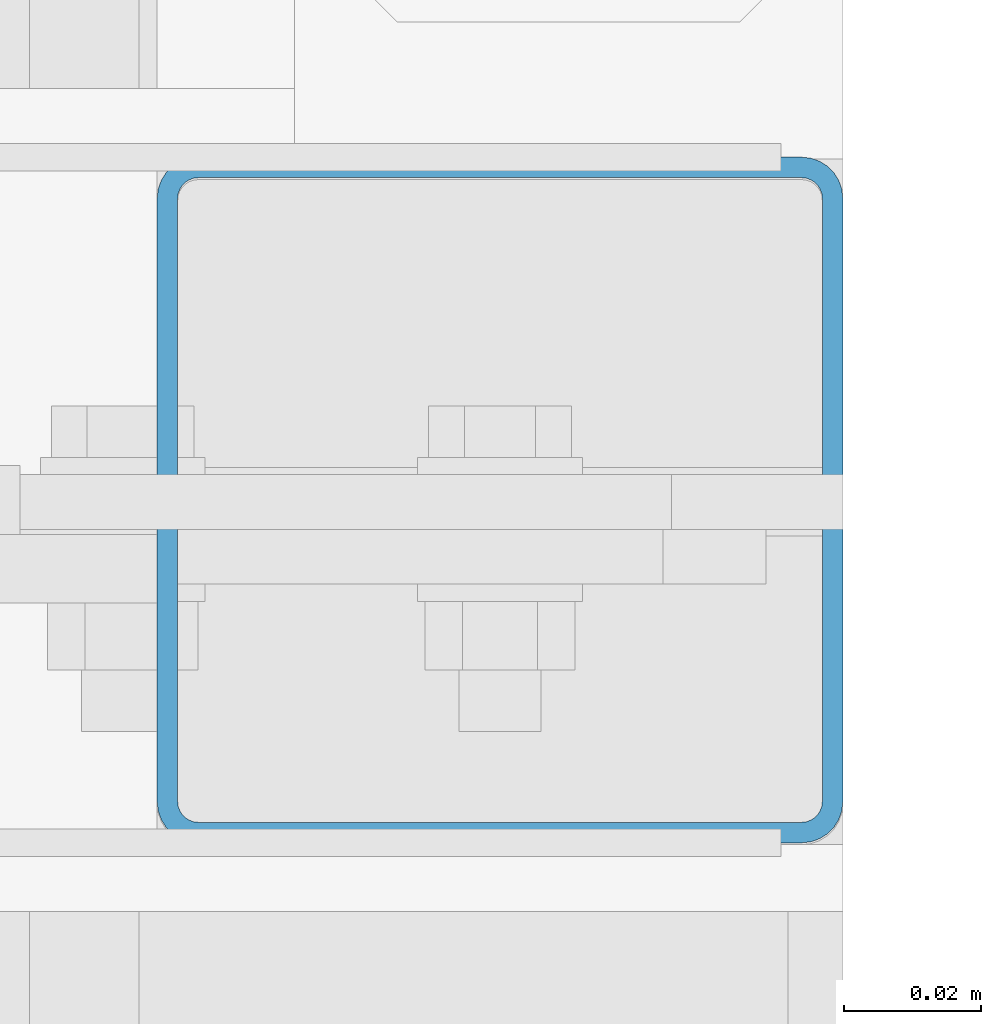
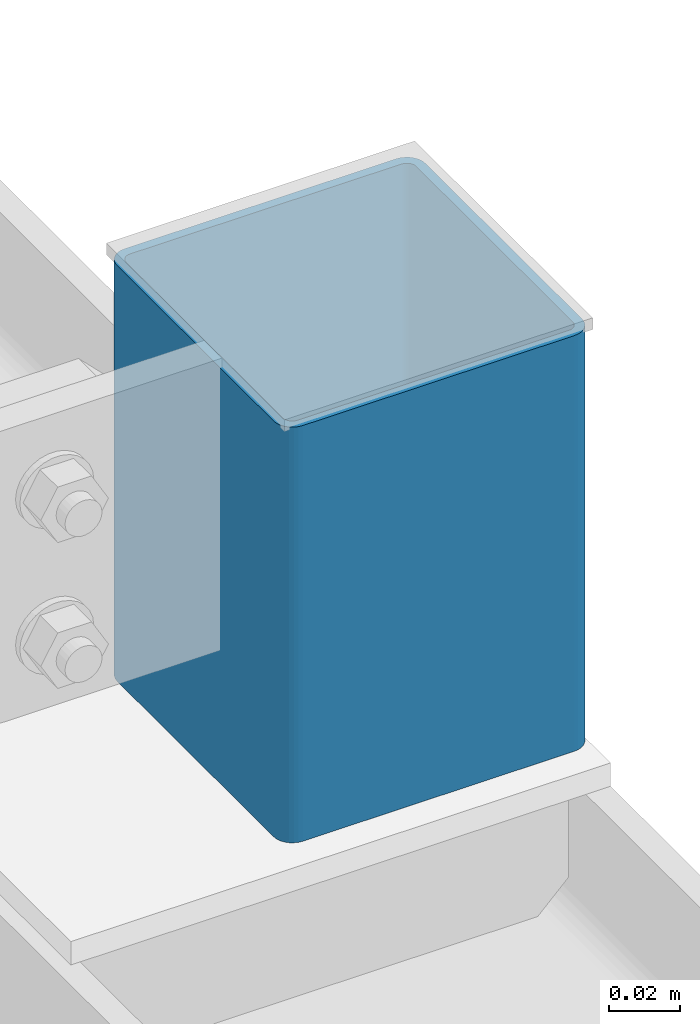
# One storey, part 84 of 271: 1 beam, 1 element without a shape of its own.
"""IFC2X3 building model written with IfcOpenShell, lengths in millimetres."""

from ifc_helpers import new_model, si_unit, frame, origin_with_axes, origin_2d_with_axis, place, context, subcontext, project, spatial, hollow_rectangle, extrude, clip, halfspace, material, type_object, element, aggregate, save


model = new_model("IFC2X3")

# Units and contexts
model_context = context("Model", 3, precision=1e-05, world=origin_with_axes())
body_context = subcontext(model_context, "Body", "Model", "MODEL_VIEW")
ifc_project = project(units=[si_unit("LENGTHUNIT", "METRE", prefix="MILLI"), si_unit("AREAUNIT", "SQUARE_METRE"), si_unit("VOLUMEUNIT", "CUBIC_METRE"), si_unit("MASSUNIT", "GRAM", prefix="KILO"), si_unit("TIMEUNIT", "SECOND"), si_unit("PLANEANGLEUNIT", "RADIAN"), si_unit("SOLIDANGLEUNIT", "STERADIAN"), si_unit("THERMODYNAMICTEMPERATUREUNIT", "DEGREE_CELSIUS"), si_unit("LUMINOUSINTENSITYUNIT", "LUMEN")], contexts=[model_context])

# Site, building, storey
site_placement = place(None, origin_with_axes())
site = spatial("IfcSite", under=ifc_project, at=site_placement, Name="Undefined", CompositionType="ELEMENT")
building_placement = place(site_placement, origin_with_axes())
building = spatial("IfcBuilding", under=site, at=building_placement, Name="Undefined", CompositionType="ELEMENT")
storey_placement = place(building_placement, origin_with_axes())
storey = spatial("IfcBuildingStorey", under=building, at=storey_placement, Name="Undefined", CompositionType="ELEMENT", Elevation=0.0)

# Assembly, beam
assembly_placement = place(storey_placement, origin_with_axes())
assembly = element("IfcElementAssembly", 1, at=assembly_placement, inside=storey, AssemblyPlace="NOTDEFINED", PredefinedType="RIGID_FRAME")
ifc_material = material(Name="STEEL/S355JR")
beam_type = type_object("IfcBeamType", Name="SHS100*3", PredefinedType="NOTDEFINED")
beam_placement = place(assembly_placement, frame((12658.3756870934, 899.324984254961, 20204.3499999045), z_axis=(0.0, 1.0, 0.0), x_axis=(0.0, 0.0, -1.0)))
beam = element("IfcBeam", 2, at=beam_placement, type_object=beam_type, material=ifc_material, Name="TĘŻNIK", ObjectType="SHS100*3", context=body_context, shape_type="Clipping", body=[
    clip(extrude(hollow_rectangle(XDim=100.0, YDim=100.0, WallThickness=3.0, InnerFilletRadius=3.0, OuterFilletRadius=6.0, at=origin_2d_with_axis()), frame((146.5, 0.0, 0.0), z_axis=(-1.0, 0.0, 1.38777878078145e-17), x_axis=(0.0, -1.0, 0.0)), (0.0, 0.0, 1.0), 146.5), halfspace(frame((4.0, 0.0, -50.0), z_axis=(1.0, 0.0, 0.0), x_axis=(0.0, -1.0, 0.0)), True)),
])
aggregate(assembly, [beam])

save(model, "model.ifc")
